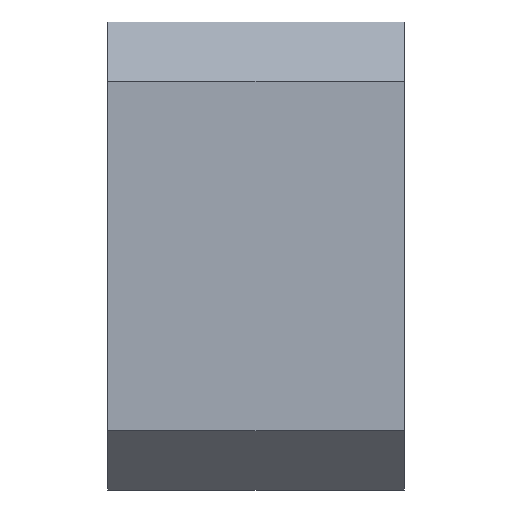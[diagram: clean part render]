
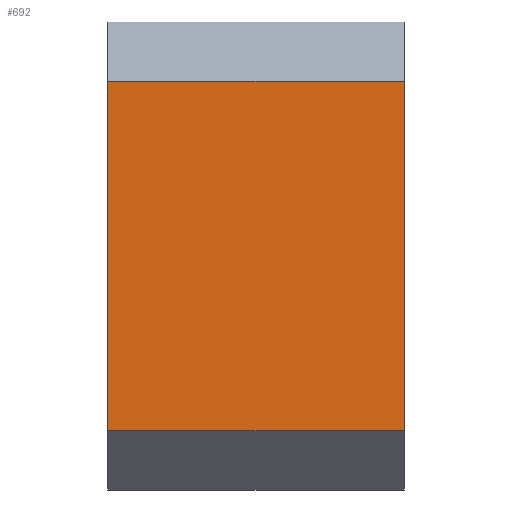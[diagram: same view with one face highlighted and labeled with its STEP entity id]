
A CAD part, top view. The second image highlights one B-rep face of the part: STEP entity #692.
In plain terms, the highlighted planar face has unit normal (0, 0, 1).
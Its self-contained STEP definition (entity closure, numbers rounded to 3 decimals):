
#21 = CARTESIAN_POINT ( 'NONE',  ( 42.5, 26.149, 31.364 ) ) ;
#40 = DIRECTION ( 'NONE',  ( 0., 1., 0. ) ) ;
#61 = EDGE_CURVE ( 'NONE', #701, #495, #440, .T. ) ;
#64 = VECTOR ( 'NONE', #648, 1000. ) ;
#65 = FACE_OUTER_BOUND ( 'NONE', #581, .T. ) ;
#84 = LINE ( 'NONE', #578, #64 ) ;
#93 = DIRECTION ( 'NONE',  ( 0., 1., 0. ) ) ;
#126 = CARTESIAN_POINT ( 'NONE',  ( 42.5, -23.851, 31.364 ) ) ;
#179 = ORIENTED_EDGE ( 'NONE', *, *, #662, .T. ) ;
#192 = VERTEX_POINT ( 'NONE', #531 ) ;
#225 = AXIS2_PLACEMENT_3D ( 'NONE', #485, #363, #730 ) ;
#247 = VERTEX_POINT ( 'NONE', #126 ) ;
#266 = ORIENTED_EDGE ( 'NONE', *, *, #316, .T. ) ;
#271 = VECTOR ( 'NONE', #93, 1000. ) ;
#316 = EDGE_CURVE ( 'NONE', #192, #495, #642, .T. ) ;
#363 = DIRECTION ( 'NONE',  ( 0., 0., 1. ) ) ;
#381 = VECTOR ( 'NONE', #40, 1000. ) ;
#399 = CARTESIAN_POINT ( 'NONE',  ( 0., -23.851, 31.364 ) ) ;
#440 = LINE ( 'NONE', #807, #271 ) ;
#450 = EDGE_CURVE ( 'NONE', #247, #701, #84, .T. ) ;
#485 = CARTESIAN_POINT ( 'NONE',  ( 42.5, -23.851, 31.364 ) ) ;
#487 = PLANE ( 'NONE',  #225 ) ;
#495 = VERTEX_POINT ( 'NONE', #667 ) ;
#531 = CARTESIAN_POINT ( 'NONE',  ( 42.5, 26.149, 31.364 ) ) ;
#578 = CARTESIAN_POINT ( 'NONE',  ( 42.5, -23.851, 31.364 ) ) ;
#581 = EDGE_LOOP ( 'NONE', ( #809, #676, #179, #266 ) ) ;
#595 = LINE ( 'NONE', #617, #381 ) ;
#597 = DIRECTION ( 'NONE',  ( -1., 0., 0. ) ) ;
#617 = CARTESIAN_POINT ( 'NONE',  ( 42.5, -23.851, 31.364 ) ) ;
#618 = VECTOR ( 'NONE', #597, 1000. ) ;
#642 = LINE ( 'NONE', #21, #618 ) ;
#648 = DIRECTION ( 'NONE',  ( -1., 0., 0. ) ) ;
#662 = EDGE_CURVE ( 'NONE', #247, #192, #595, .T. ) ;
#667 = CARTESIAN_POINT ( 'NONE',  ( 0., 26.149, 31.364 ) ) ;
#676 = ORIENTED_EDGE ( 'NONE', *, *, #450, .F. ) ;
#692 = ADVANCED_FACE ( 'NONE', ( #65 ), #487, .T. ) ;
#701 = VERTEX_POINT ( 'NONE', #399 ) ;
#730 = DIRECTION ( 'NONE',  ( 1., 0., 0. ) ) ;
#807 = CARTESIAN_POINT ( 'NONE',  ( 0., -23.851, 31.364 ) ) ;
#809 = ORIENTED_EDGE ( 'NONE', *, *, #61, .F. ) ;
